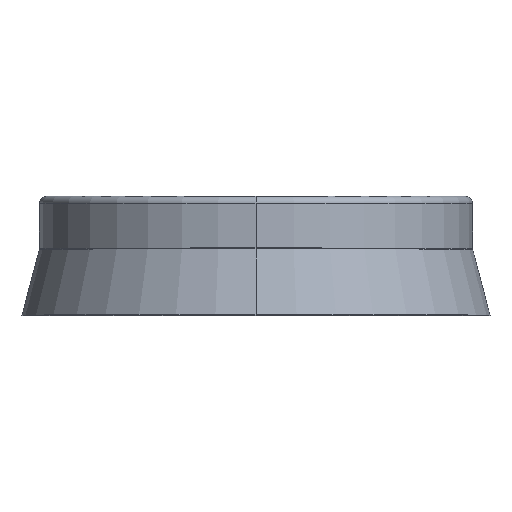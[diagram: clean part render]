
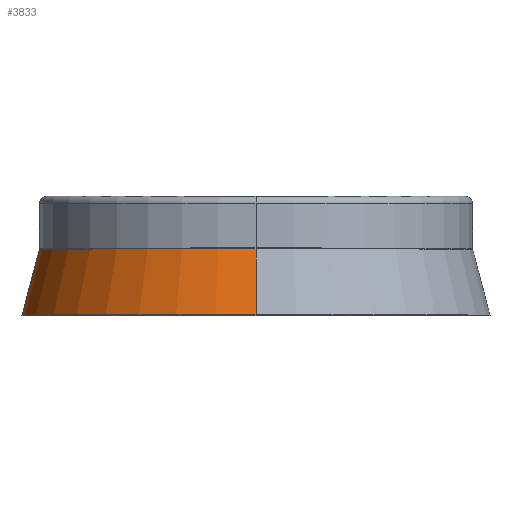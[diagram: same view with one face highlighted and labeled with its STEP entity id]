
A CAD part, top view. The second image highlights one B-rep face of the part: STEP entity #3833.
In plain terms, the highlighted conical face has half-angle 14.744 degrees and reference radius 31 mm.
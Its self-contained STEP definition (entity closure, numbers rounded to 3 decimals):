
#47 = CARTESIAN_POINT ( 'NONE',  ( -33.5, -17., 15. ) ) ;
#442 = CARTESIAN_POINT ( 'NONE',  ( 0., -17., 48.5 ) ) ;
#628 = CARTESIAN_POINT ( 'NONE',  ( -31., -7.5, 15. ) ) ;
#671 = ORIENTED_EDGE ( 'NONE', *, *, #3363, .T. ) ;
#691 = AXIS2_PLACEMENT_3D ( 'NONE', #5034, #2370, #3260 ) ;
#869 = DIRECTION ( 'NONE',  ( 0., 0., -1. ) ) ;
#1207 = ORIENTED_EDGE ( 'NONE', *, *, #5573, .F. ) ;
#1211 = VECTOR ( 'NONE', #4163, 1000. ) ;
#1302 = VECTOR ( 'NONE', #3624, 1000. ) ;
#1405 = EDGE_CURVE ( 'NONE', #3661, #2153, #1552, .T. ) ;
#1541 = CARTESIAN_POINT ( 'NONE',  ( -31.016, -7.563, 15. ) ) ;
#1552 = LINE ( 'NONE', #628, #1211 ) ;
#1729 = CIRCLE ( 'NONE', #691, 33.5 ) ;
#1841 = CARTESIAN_POINT ( 'NONE',  ( 0., -7.5, 46. ) ) ;
#2078 = ORIENTED_EDGE ( 'NONE', *, *, #3138, .F. ) ;
#2143 = AXIS2_PLACEMENT_3D ( 'NONE', #4254, #4629, #5519 ) ;
#2153 = VERTEX_POINT ( 'NONE', #47 ) ;
#2212 = DIRECTION ( 'NONE',  ( 0., -1., 0. ) ) ;
#2370 = DIRECTION ( 'NONE',  ( 0., -1., 0. ) ) ;
#2540 = CONICAL_SURFACE ( 'NONE', #2143, 31., 0.257 ) ;
#2599 = VERTEX_POINT ( 'NONE', #4438 ) ;
#2686 = CARTESIAN_POINT ( 'NONE',  ( 0., -7.563, 15. ) ) ;
#2914 = ORIENTED_EDGE ( 'NONE', *, *, #1405, .T. ) ;
#3138 = EDGE_CURVE ( 'NONE', #2599, #4738, #4829, .T. ) ;
#3260 = DIRECTION ( 'NONE',  ( 0., 0., 1. ) ) ;
#3275 = AXIS2_PLACEMENT_3D ( 'NONE', #2686, #2212, #869 ) ;
#3363 = EDGE_CURVE ( 'NONE', #2599, #3661, #5101, .T. ) ;
#3387 = EDGE_LOOP ( 'NONE', ( #2078, #671, #2914, #1207 ) ) ;
#3624 = DIRECTION ( 'NONE',  ( 0., -0.967, 0.254 ) ) ;
#3661 = VERTEX_POINT ( 'NONE', #1541 ) ;
#3833 = ADVANCED_FACE ( 'NONE', ( #4415 ), #2540, .T. ) ;
#4163 = DIRECTION ( 'NONE',  ( -0.254, -0.967, 0. ) ) ;
#4254 = CARTESIAN_POINT ( 'NONE',  ( 0., -7.5, 15. ) ) ;
#4415 = FACE_OUTER_BOUND ( 'NONE', #3387, .T. ) ;
#4438 = CARTESIAN_POINT ( 'NONE',  ( 0., -7.563, 46.016 ) ) ;
#4629 = DIRECTION ( 'NONE',  ( 0., -1., 0. ) ) ;
#4738 = VERTEX_POINT ( 'NONE', #442 ) ;
#4829 = LINE ( 'NONE', #1841, #1302 ) ;
#5034 = CARTESIAN_POINT ( 'NONE',  ( 0., -17., 15. ) ) ;
#5101 = CIRCLE ( 'NONE', #3275, 31.016 ) ;
#5519 = DIRECTION ( 'NONE',  ( 0., 0., -1. ) ) ;
#5573 = EDGE_CURVE ( 'NONE', #4738, #2153, #1729, .T. ) ;
